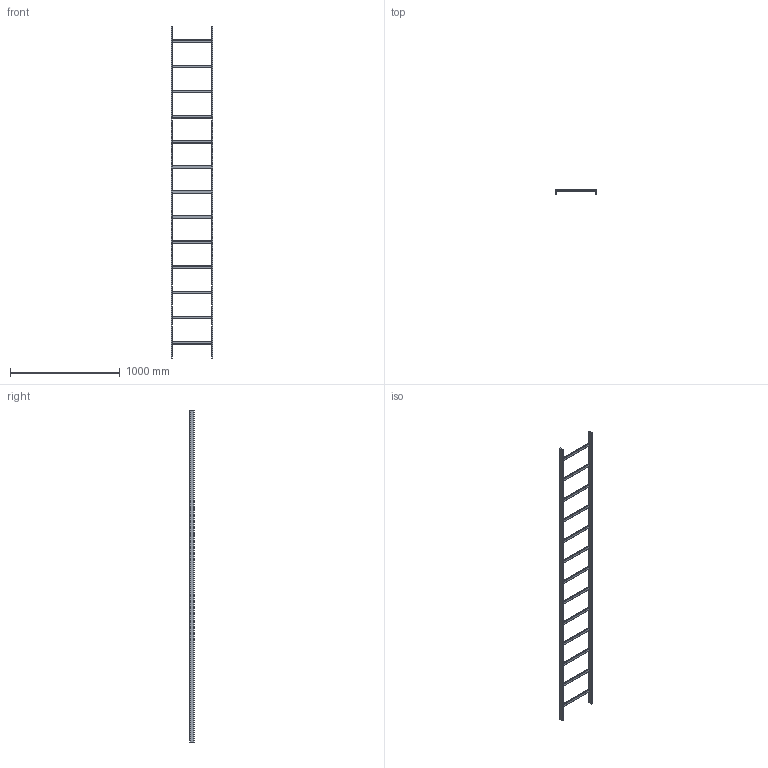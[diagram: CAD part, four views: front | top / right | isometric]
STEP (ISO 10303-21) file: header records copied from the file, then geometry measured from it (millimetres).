
FILE_DESCRIPTION (( 'STEP AP203' ), '1' );
FILE_NAME ('lss15blk.STEP', '2015-05-08T19:36:59', ( '' ), ( '' ), 'SwSTEP 2.0', 'SolidWorks 2010', '' );
FILE_SCHEMA (( 'CONFIG_CONTROL_DESIGN' ));
Length unit declared in the file: inch
Products named in the file (1): lss15blk
Bounding box: 381 x 38.1 x 3022.6 mm (x, y, z)
Volume: 1197028.9 mm3; surface area: 1724678.2 mm2
Topology: 1 solids, 14 shells, 230 faces, 646 edges, 420 vertices
Faces by surface type: plane 162, cylinder 64, bspline 4
Entity records: 7607 total; most frequent: CARTESIAN_POINT 1497, ORIENTED_EDGE 1292, DIRECTION 1228, EDGE_CURVE 646, VECTOR 462, LINE 462, VERTEX_POINT 420, AXIS2_PLACEMENT_3D 383
